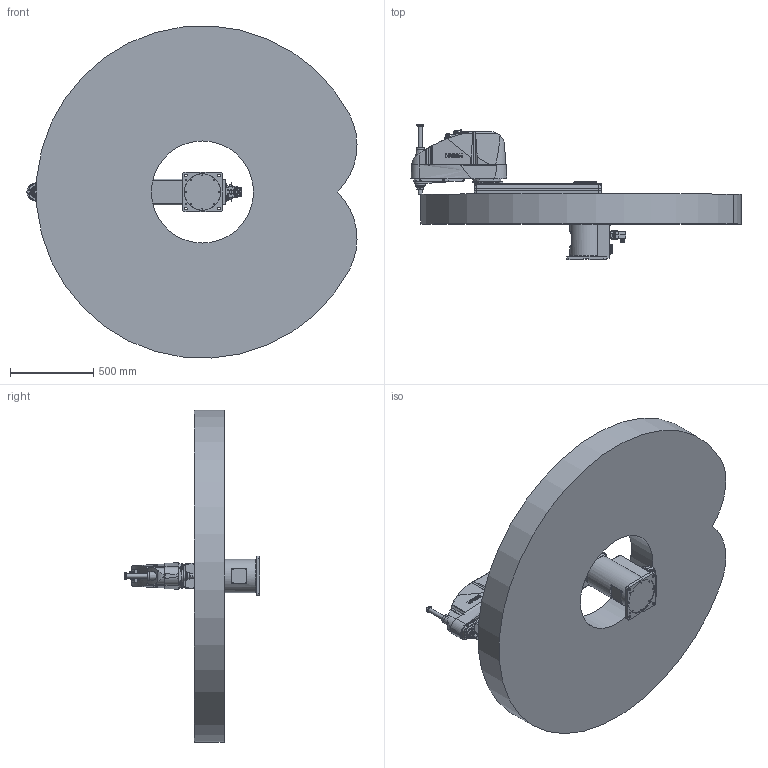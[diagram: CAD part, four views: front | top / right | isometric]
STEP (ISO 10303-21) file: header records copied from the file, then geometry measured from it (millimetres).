
FILE_DESCRIPTION( ( 'STEP AP214' ), '1' );
FILE_NAME( 'C:/Users/9607552/Desktop/GX20-BA01S_langle.stp', '2023-08-01T09:41:30', ( '' ), ( '' ), ' ', 'PARTsolutions', ' ' );
FILE_SCHEMA( ( 'AUTOMOTIVE_DESIGN { 1 0 10303 214 1 1 1 1 }' ) );
Length unit declared in the file: millimetre
Products named in the file (7): GX20-BA01SA-W; _Base s; _Angle-B; _J1 Arm GX10-600; _J2 Arm GX10-s; _J3 Arm GX10-s (1); _GX10_20B-24_1
Assembly tree (6 placements, depth 2):
  GX20-BA01SA-W
    _Base s
    _Angle-B
    _J1 Arm GX10-600
    _J2 Arm GX10-s
    _J3 Arm GX10-s (1)
    _GX10_20B-24_1
Bounding box: 1985.18 x 813.5 x 1997.01 mm (x, y, z)
Volume: 544686781.9 mm3; surface area: 8534027.9 mm2
Topology: 6 solids, 6 shells, 2387 faces, 5833 edges, 3810 vertices
Faces by surface type: plane 1254, cylinder 742, cone 296, torus 62, bspline 32, sphere 1
Full cylindrical faces by diameter (mm): 1 x24, 1.18 x55, 3 x32, 3.242 x10, 3.3 x4, 4.2 x4, 4.8 x4, 5.1 x4, 5.25 x2, 5.34 x4, 5.4 x5, 5.5 x12, 6 x1, 6.2 x4, 6.647 x2, 7 x31, 8 x9, 8.5 x2, 9 x4, 10 x32, 11 x14, 12 x6, 12.25 x1, 13 x2, 14 x8, 14.25 x1, 16 x6, 18 x1, 20.4 x1, 21.7 x2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
Entity records: 90563 total; most frequent: CARTESIAN_POINT 17365, DIRECTION 11161, ORIENTED_EDGE 10370, EDGE_CURVE 5185, AXIS2_PLACEMENT_3D 4264, VERTEX_POINT 3729, EDGE_LOOP 3332, FACE_OUTER_BOUND 2751
